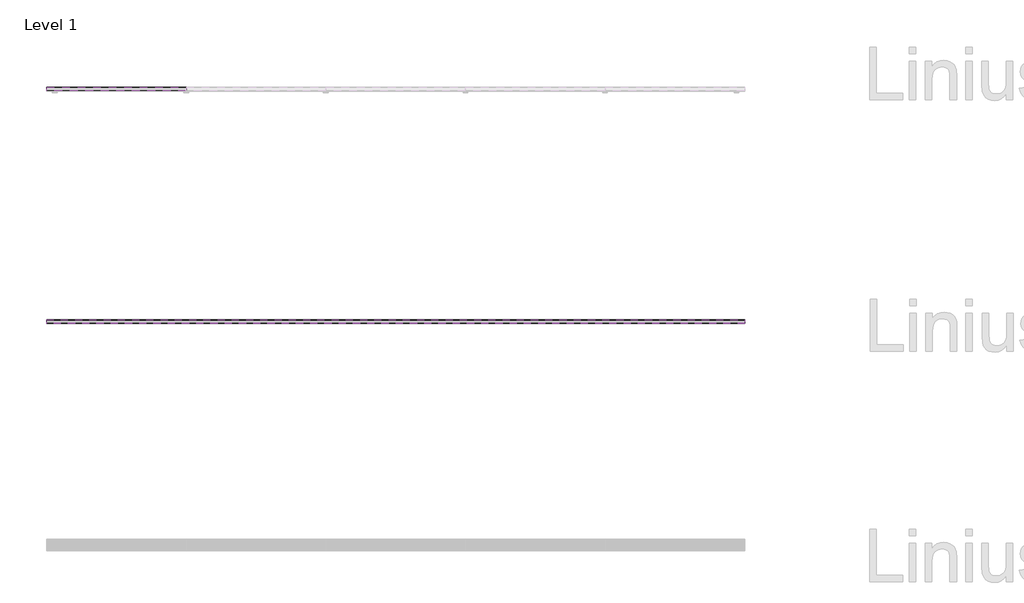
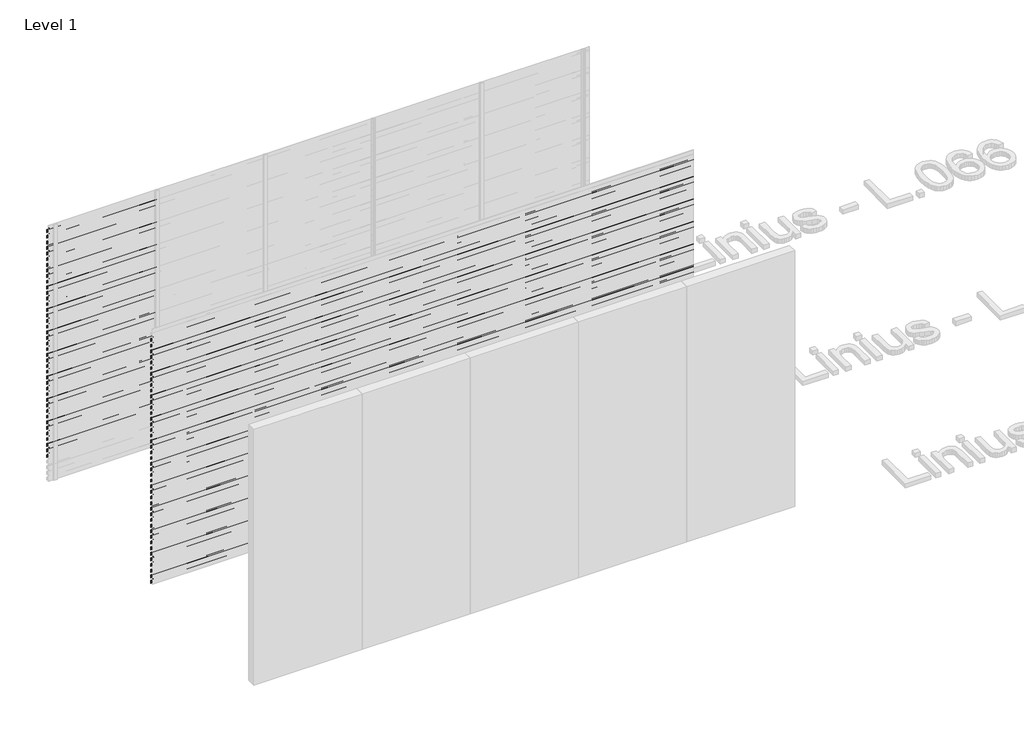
# One storey, part 94 of 540: 85 proxies.
"""IFC4 building model written with IfcOpenShell, lengths in millimetres."""

from ifc_helpers import new_model, si_unit, frame, origin, place, context, project, spatial, polyline, outline, extrude, element, save

model = new_model("IFC4")

# Units and contexts
model_context = context("Model", 3, world=origin())
ifc_project = project(units=[si_unit("LENGTHUNIT", "METRE", prefix="MILLI")], contexts=[model_context])

# Site, building, storey
site = spatial("IfcSite", under=ifc_project)
building = spatial("IfcBuilding", under=site)
storey = spatial("IfcBuildingStorey", under=building, Name="Level 1", Elevation=0.0)

# Proxies
placement = place(None, origin())
element("IfcBuildingElementProxy", 1, Name="Wall Sweeps", at=placement, inside=storey, context=model_context, shape_type="SweptSolid", body=[
    extrude(outline(polyline([(44014.0540136, 2930.0), (44014.0540136, 2897.0), (44012.8040136, 2897.7216933), (44012.8040136, 2929.2872415), (43983.0540136, 2950.0588647), (43983.0540136, 2970.0), (43984.3040136, 2970.0), (43984.3040136, 2950.7716232), (44014.0540136, 2930.0)])), frame((44966.6208097, 0.0, 0.0), z_axis=(1.0, 0.0, 0.0), x_axis=(0.0, 1.0, 0.0)), (0.0, 0.0, 1.0), 1200.0),
])
element("IfcBuildingElementProxy", 2, Name="Wall Sweeps", at=placement, inside=storey, context=model_context, shape_type="SweptSolid", body=[
    extrude(outline(polyline([(44014.0540136, 2864.0), (44014.0540136, 2831.0), (44012.8040136, 2831.7216933), (44012.8040136, 2863.2872415), (43983.0540136, 2884.0588647), (43983.0540136, 2904.0), (43984.3040136, 2904.0), (43984.3040136, 2884.7716232), (44014.0540136, 2864.0)])), frame((44966.6208097, 0.0, 0.0), z_axis=(1.0, 0.0, 0.0), x_axis=(0.0, 1.0, 0.0)), (0.0, 0.0, 1.0), 1200.0),
])
element("IfcBuildingElementProxy", 3, Name="Wall Sweeps", at=placement, inside=storey, context=model_context, shape_type="SweptSolid", body=[
    extrude(outline(polyline([(44014.0540136, 2798.0), (44014.0540136, 2765.0), (44012.8040136, 2765.7216933), (44012.8040136, 2797.2872415), (43983.0540136, 2818.0588647), (43983.0540136, 2838.0), (43984.3040136, 2838.0), (43984.3040136, 2818.7716232), (44014.0540136, 2798.0)])), frame((44966.6208097, 0.0, 0.0), z_axis=(1.0, 0.0, 0.0), x_axis=(0.0, 1.0, 0.0)), (0.0, 0.0, 1.0), 1200.0),
])
element("IfcBuildingElementProxy", 4, Name="Wall Sweeps", at=placement, inside=storey, context=model_context, shape_type="SweptSolid", body=[
    extrude(outline(polyline([(44014.0540136, 2732.0), (44014.0540136, 2699.0), (44012.8040136, 2699.7216933), (44012.8040136, 2731.2872415), (43983.0540136, 2752.0588647), (43983.0540136, 2772.0), (43984.3040136, 2772.0), (43984.3040136, 2752.7716232), (44014.0540136, 2732.0)])), frame((44966.6208097, 0.0, 0.0), z_axis=(1.0, 0.0, 0.0), x_axis=(0.0, 1.0, 0.0)), (0.0, 0.0, 1.0), 1200.0),
])
element("IfcBuildingElementProxy", 5, Name="Wall Sweeps", at=placement, inside=storey, context=model_context, shape_type="SweptSolid", body=[
    extrude(outline(polyline([(44014.0540136, 2666.0), (44014.0540136, 2633.0), (44012.8040136, 2633.7216933), (44012.8040136, 2665.2872415), (43983.0540136, 2686.0588647), (43983.0540136, 2706.0), (43984.3040136, 2706.0), (43984.3040136, 2686.7716232), (44014.0540136, 2666.0)])), frame((44966.6208097, 0.0, 0.0), z_axis=(1.0, 0.0, 0.0), x_axis=(0.0, 1.0, 0.0)), (0.0, 0.0, 1.0), 1200.0),
])
element("IfcBuildingElementProxy", 6, Name="Wall Sweeps", at=placement, inside=storey, context=model_context, shape_type="SweptSolid", body=[
    extrude(outline(polyline([(44014.0540136, 2600.0), (44014.0540136, 2567.0), (44012.8040136, 2567.7216933), (44012.8040136, 2599.2872415), (43983.0540136, 2620.0588647), (43983.0540136, 2640.0), (43984.3040136, 2640.0), (43984.3040136, 2620.7716232), (44014.0540136, 2600.0)])), frame((44966.6208097, 0.0, 0.0), z_axis=(1.0, 0.0, 0.0), x_axis=(0.0, 1.0, 0.0)), (0.0, 0.0, 1.0), 1200.0),
])
element("IfcBuildingElementProxy", 7, Name="Wall Sweeps", at=placement, inside=storey, context=model_context, shape_type="SweptSolid", body=[
    extrude(outline(polyline([(44014.0540136, 2534.0), (44014.0540136, 2501.0), (44012.8040136, 2501.7216933), (44012.8040136, 2533.2872415), (43983.0540136, 2554.0588647), (43983.0540136, 2574.0), (43984.3040136, 2574.0), (43984.3040136, 2554.7716232), (44014.0540136, 2534.0)])), frame((44966.6208097, 0.0, 0.0), z_axis=(1.0, 0.0, 0.0), x_axis=(0.0, 1.0, 0.0)), (0.0, 0.0, 1.0), 1200.0),
])
element("IfcBuildingElementProxy", 8, Name="Wall Sweeps", at=placement, inside=storey, context=model_context, shape_type="SweptSolid", body=[
    extrude(outline(polyline([(44014.0540136, 2468.0), (44014.0540136, 2435.0), (44012.8040136, 2435.7216933), (44012.8040136, 2467.2872415), (43983.0540136, 2488.0588647), (43983.0540136, 2508.0), (43984.3040136, 2508.0), (43984.3040136, 2488.7716232), (44014.0540136, 2468.0)])), frame((44966.6208097, 0.0, 0.0), z_axis=(1.0, 0.0, 0.0), x_axis=(0.0, 1.0, 0.0)), (0.0, 0.0, 1.0), 1200.0),
])
element("IfcBuildingElementProxy", 9, Name="Wall Sweeps", at=placement, inside=storey, context=model_context, shape_type="SweptSolid", body=[
    extrude(outline(polyline([(44014.0540136, 2402.0), (44014.0540136, 2369.0), (44012.8040136, 2369.7216933), (44012.8040136, 2401.2872415), (43983.0540136, 2422.0588647), (43983.0540136, 2442.0), (43984.3040136, 2442.0), (43984.3040136, 2422.7716232), (44014.0540136, 2402.0)])), frame((44966.6208097, 0.0, 0.0), z_axis=(1.0, 0.0, 0.0), x_axis=(0.0, 1.0, 0.0)), (0.0, 0.0, 1.0), 1200.0),
])
element("IfcBuildingElementProxy", 10, Name="Wall Sweeps", at=placement, inside=storey, context=model_context, shape_type="SweptSolid", body=[
    extrude(outline(polyline([(44014.0540136, 2336.0), (44014.0540136, 2303.0), (44012.8040136, 2303.7216933), (44012.8040136, 2335.2872415), (43983.0540136, 2356.0588647), (43983.0540136, 2376.0), (43984.3040136, 2376.0), (43984.3040136, 2356.7716232), (44014.0540136, 2336.0)])), frame((44966.6208097, 0.0, 0.0), z_axis=(1.0, 0.0, 0.0), x_axis=(0.0, 1.0, 0.0)), (0.0, 0.0, 1.0), 1200.0),
])
element("IfcBuildingElementProxy", 11, Name="Wall Sweeps", at=placement, inside=storey, context=model_context, shape_type="SweptSolid", body=[
    extrude(outline(polyline([(44014.0540136, 2270.0), (44014.0540136, 2237.0), (44012.8040136, 2237.7216933), (44012.8040136, 2269.2872415), (43983.0540136, 2290.0588647), (43983.0540136, 2310.0), (43984.3040136, 2310.0), (43984.3040136, 2290.7716232), (44014.0540136, 2270.0)])), frame((44966.6208097, 0.0, 0.0), z_axis=(1.0, 0.0, 0.0), x_axis=(0.0, 1.0, 0.0)), (0.0, 0.0, 1.0), 1200.0),
])
element("IfcBuildingElementProxy", 12, Name="Wall Sweeps", at=placement, inside=storey, context=model_context, shape_type="SweptSolid", body=[
    extrude(outline(polyline([(44014.0540136, 2204.0), (44014.0540136, 2171.0), (44012.8040136, 2171.7216933), (44012.8040136, 2203.2872415), (43983.0540136, 2224.0588647), (43983.0540136, 2244.0), (43984.3040136, 2244.0), (43984.3040136, 2224.7716232), (44014.0540136, 2204.0)])), frame((44966.6208097, 0.0, 0.0), z_axis=(1.0, 0.0, 0.0), x_axis=(0.0, 1.0, 0.0)), (0.0, 0.0, 1.0), 1200.0),
])
element("IfcBuildingElementProxy", 13, Name="Wall Sweeps", at=placement, inside=storey, context=model_context, shape_type="SweptSolid", body=[
    extrude(outline(polyline([(44014.0540136, 2138.0), (44014.0540136, 2105.0), (44012.8040136, 2105.7216933), (44012.8040136, 2137.2872415), (43983.0540136, 2158.0588647), (43983.0540136, 2178.0), (43984.3040136, 2178.0), (43984.3040136, 2158.7716232), (44014.0540136, 2138.0)])), frame((44966.6208097, 0.0, 0.0), z_axis=(1.0, 0.0, 0.0), x_axis=(0.0, 1.0, 0.0)), (0.0, 0.0, 1.0), 1200.0),
])
element("IfcBuildingElementProxy", 14, Name="Wall Sweeps", at=placement, inside=storey, context=model_context, shape_type="SweptSolid", body=[
    extrude(outline(polyline([(44014.0540136, 2072.0), (44014.0540136, 2039.0), (44012.8040136, 2039.7216933), (44012.8040136, 2071.2872415), (43983.0540136, 2092.0588647), (43983.0540136, 2112.0), (43984.3040136, 2112.0), (43984.3040136, 2092.7716232), (44014.0540136, 2072.0)])), frame((44966.6208097, 0.0, 0.0), z_axis=(1.0, 0.0, 0.0), x_axis=(0.0, 1.0, 0.0)), (0.0, 0.0, 1.0), 1200.0),
])
element("IfcBuildingElementProxy", 15, Name="Wall Sweeps", at=placement, inside=storey, context=model_context, shape_type="SweptSolid", body=[
    extrude(outline(polyline([(44014.0540136, 2006.0), (44014.0540136, 1973.0), (44012.8040136, 1973.7216933), (44012.8040136, 2005.2872415), (43983.0540136, 2026.0588647), (43983.0540136, 2046.0), (43984.3040136, 2046.0), (43984.3040136, 2026.7716232), (44014.0540136, 2006.0)])), frame((44966.6208097, 0.0, 0.0), z_axis=(1.0, 0.0, 0.0), x_axis=(0.0, 1.0, 0.0)), (0.0, 0.0, 1.0), 1200.0),
])
element("IfcBuildingElementProxy", 16, Name="Wall Sweeps", at=placement, inside=storey, context=model_context, shape_type="SweptSolid", body=[
    extrude(outline(polyline([(44014.0540136, 1940.0), (44014.0540136, 1907.0), (44012.8040136, 1907.7216933), (44012.8040136, 1939.2872415), (43983.0540136, 1960.0588647), (43983.0540136, 1980.0), (43984.3040136, 1980.0), (43984.3040136, 1960.7716232), (44014.0540136, 1940.0)])), frame((44966.6208097, 0.0, 0.0), z_axis=(1.0, 0.0, 0.0), x_axis=(0.0, 1.0, 0.0)), (0.0, 0.0, 1.0), 1200.0),
])
element("IfcBuildingElementProxy", 17, Name="Wall Sweeps", at=placement, inside=storey, context=model_context, shape_type="SweptSolid", body=[
    extrude(outline(polyline([(44014.0540136, 1874.0), (44014.0540136, 1841.0), (44012.8040136, 1841.7216933), (44012.8040136, 1873.2872415), (43983.0540136, 1894.0588647), (43983.0540136, 1914.0), (43984.3040136, 1914.0), (43984.3040136, 1894.7716232), (44014.0540136, 1874.0)])), frame((44966.6208097, 0.0, 0.0), z_axis=(1.0, 0.0, 0.0), x_axis=(0.0, 1.0, 0.0)), (0.0, 0.0, 1.0), 1200.0),
])
element("IfcBuildingElementProxy", 18, Name="Wall Sweeps", at=placement, inside=storey, context=model_context, shape_type="SweptSolid", body=[
    extrude(outline(polyline([(44014.0540136, 1808.0), (44014.0540136, 1775.0), (44012.8040136, 1775.7216933), (44012.8040136, 1807.2872415), (43983.0540136, 1828.0588647), (43983.0540136, 1848.0), (43984.3040136, 1848.0), (43984.3040136, 1828.7716232), (44014.0540136, 1808.0)])), frame((44966.6208097, 0.0, 0.0), z_axis=(1.0, 0.0, 0.0), x_axis=(0.0, 1.0, 0.0)), (0.0, 0.0, 1.0), 1200.0),
])
element("IfcBuildingElementProxy", 19, Name="Wall Sweeps", at=placement, inside=storey, context=model_context, shape_type="SweptSolid", body=[
    extrude(outline(polyline([(44014.0540136, 1742.0), (44014.0540136, 1709.0), (44012.8040136, 1709.7216933), (44012.8040136, 1741.2872415), (43983.0540136, 1762.0588647), (43983.0540136, 1782.0), (43984.3040136, 1782.0), (43984.3040136, 1762.7716232), (44014.0540136, 1742.0)])), frame((44966.6208097, 0.0, 0.0), z_axis=(1.0, 0.0, 0.0), x_axis=(0.0, 1.0, 0.0)), (0.0, 0.0, 1.0), 1200.0),
])
element("IfcBuildingElementProxy", 20, Name="Wall Sweeps", at=placement, inside=storey, context=model_context, shape_type="SweptSolid", body=[
    extrude(outline(polyline([(44014.0540136, 1676.0), (44014.0540136, 1643.0), (44012.8040136, 1643.7216933), (44012.8040136, 1675.2872415), (43983.0540136, 1696.0588647), (43983.0540136, 1716.0), (43984.3040136, 1716.0), (43984.3040136, 1696.7716232), (44014.0540136, 1676.0)])), frame((44966.6208097, 0.0, 0.0), z_axis=(1.0, 0.0, 0.0), x_axis=(0.0, 1.0, 0.0)), (0.0, 0.0, 1.0), 1200.0),
])
element("IfcBuildingElementProxy", 21, Name="Wall Sweeps", at=placement, inside=storey, context=model_context, shape_type="SweptSolid", body=[
    extrude(outline(polyline([(44014.0540136, 1610.0), (44014.0540136, 1577.0), (44012.8040136, 1577.7216933), (44012.8040136, 1609.2872415), (43983.0540136, 1630.0588647), (43983.0540136, 1650.0), (43984.3040136, 1650.0), (43984.3040136, 1630.7716232), (44014.0540136, 1610.0)])), frame((44966.6208097, 0.0, 0.0), z_axis=(1.0, 0.0, 0.0), x_axis=(0.0, 1.0, 0.0)), (0.0, 0.0, 1.0), 1200.0),
])
element("IfcBuildingElementProxy", 22, Name="Wall Sweeps", at=placement, inside=storey, context=model_context, shape_type="SweptSolid", body=[
    extrude(outline(polyline([(44014.0540136, 1544.0), (44014.0540136, 1511.0), (44012.8040136, 1511.7216933), (44012.8040136, 1543.2872415), (43983.0540136, 1564.0588647), (43983.0540136, 1584.0), (43984.3040136, 1584.0), (43984.3040136, 1564.7716232), (44014.0540136, 1544.0)])), frame((44966.6208097, 0.0, 0.0), z_axis=(1.0, 0.0, 0.0), x_axis=(0.0, 1.0, 0.0)), (0.0, 0.0, 1.0), 1200.0),
])
element("IfcBuildingElementProxy", 23, Name="Wall Sweeps", at=placement, inside=storey, context=model_context, shape_type="SweptSolid", body=[
    extrude(outline(polyline([(44014.0540136, 1478.0), (44014.0540136, 1445.0), (44012.8040136, 1445.7216933), (44012.8040136, 1477.2872415), (43983.0540136, 1498.0588647), (43983.0540136, 1518.0), (43984.3040136, 1518.0), (43984.3040136, 1498.7716232), (44014.0540136, 1478.0)])), frame((44966.6208097, 0.0, 0.0), z_axis=(1.0, 0.0, 0.0), x_axis=(0.0, 1.0, 0.0)), (0.0, 0.0, 1.0), 1200.0),
])
element("IfcBuildingElementProxy", 24, Name="Wall Sweeps", at=placement, inside=storey, context=model_context, shape_type="SweptSolid", body=[
    extrude(outline(polyline([(44014.0540136, 1412.0), (44014.0540136, 1379.0), (44012.8040136, 1379.7216933), (44012.8040136, 1411.2872415), (43983.0540136, 1432.0588647), (43983.0540136, 1452.0), (43984.3040136, 1452.0), (43984.3040136, 1432.7716232), (44014.0540136, 1412.0)])), frame((44966.6208097, 0.0, 0.0), z_axis=(1.0, 0.0, 0.0), x_axis=(0.0, 1.0, 0.0)), (0.0, 0.0, 1.0), 1200.0),
])
element("IfcBuildingElementProxy", 25, Name="Wall Sweeps", at=placement, inside=storey, context=model_context, shape_type="SweptSolid", body=[
    extrude(outline(polyline([(44014.0540136, 1346.0), (44014.0540136, 1313.0), (44012.8040136, 1313.7216933), (44012.8040136, 1345.2872415), (43983.0540136, 1366.0588647), (43983.0540136, 1386.0), (43984.3040136, 1386.0), (43984.3040136, 1366.7716232), (44014.0540136, 1346.0)])), frame((44966.6208097, 0.0, 0.0), z_axis=(1.0, 0.0, 0.0), x_axis=(0.0, 1.0, 0.0)), (0.0, 0.0, 1.0), 1200.0),
])
element("IfcBuildingElementProxy", 26, Name="Wall Sweeps", at=placement, inside=storey, context=model_context, shape_type="SweptSolid", body=[
    extrude(outline(polyline([(44014.0540136, 1280.0), (44014.0540136, 1247.0), (44012.8040136, 1247.7216933), (44012.8040136, 1279.2872415), (43983.0540136, 1300.0588647), (43983.0540136, 1320.0), (43984.3040136, 1320.0), (43984.3040136, 1300.7716232), (44014.0540136, 1280.0)])), frame((44966.6208097, 0.0, 0.0), z_axis=(1.0, 0.0, 0.0), x_axis=(0.0, 1.0, 0.0)), (0.0, 0.0, 1.0), 1200.0),
])
element("IfcBuildingElementProxy", 27, Name="Wall Sweeps", at=placement, inside=storey, context=model_context, shape_type="SweptSolid", body=[
    extrude(outline(polyline([(44014.0540136, 1214.0), (44014.0540136, 1181.0), (44012.8040136, 1181.7216933), (44012.8040136, 1213.2872415), (43983.0540136, 1234.0588647), (43983.0540136, 1254.0), (43984.3040136, 1254.0), (43984.3040136, 1234.7716232), (44014.0540136, 1214.0)])), frame((44966.6208097, 0.0, 0.0), z_axis=(1.0, 0.0, 0.0), x_axis=(0.0, 1.0, 0.0)), (0.0, 0.0, 1.0), 1200.0),
])
element("IfcBuildingElementProxy", 28, Name="Wall Sweeps", at=placement, inside=storey, context=model_context, shape_type="SweptSolid", body=[
    extrude(outline(polyline([(44014.0540136, 1148.0), (44014.0540136, 1115.0), (44012.8040136, 1115.7216933), (44012.8040136, 1147.2872415), (43983.0540136, 1168.0588647), (43983.0540136, 1188.0), (43984.3040136, 1188.0), (43984.3040136, 1168.7716232), (44014.0540136, 1148.0)])), frame((44966.6208097, 0.0, 0.0), z_axis=(1.0, 0.0, 0.0), x_axis=(0.0, 1.0, 0.0)), (0.0, 0.0, 1.0), 1200.0),
])
element("IfcBuildingElementProxy", 29, Name="Wall Sweeps", at=placement, inside=storey, context=model_context, shape_type="SweptSolid", body=[
    extrude(outline(polyline([(44014.0540136, 1082.0), (44014.0540136, 1049.0), (44012.8040136, 1049.7216933), (44012.8040136, 1081.2872415), (43983.0540136, 1102.0588647), (43983.0540136, 1122.0), (43984.3040136, 1122.0), (43984.3040136, 1102.7716232), (44014.0540136, 1082.0)])), frame((44966.6208097, 0.0, 0.0), z_axis=(1.0, 0.0, 0.0), x_axis=(0.0, 1.0, 0.0)), (0.0, 0.0, 1.0), 1200.0),
])
element("IfcBuildingElementProxy", 30, Name="Wall Sweeps", at=placement, inside=storey, context=model_context, shape_type="SweptSolid", body=[
    extrude(outline(polyline([(44014.0540136, 1016.0), (44014.0540136, 983.0), (44012.8040136, 983.7216933), (44012.8040136, 1015.2872415), (43983.0540136, 1036.0588647), (43983.0540136, 1056.0), (43984.3040136, 1056.0), (43984.3040136, 1036.7716232), (44014.0540136, 1016.0)])), frame((44966.6208097, 0.0, 0.0), z_axis=(1.0, 0.0, 0.0), x_axis=(0.0, 1.0, 0.0)), (0.0, 0.0, 1.0), 1200.0),
])
element("IfcBuildingElementProxy", 31, Name="Wall Sweeps", at=placement, inside=storey, context=model_context, shape_type="SweptSolid", body=[
    extrude(outline(polyline([(44014.0540136, 950.0), (44014.0540136, 917.0), (44012.8040136, 917.7216933), (44012.8040136, 949.2872415), (43983.0540136, 970.0588647), (43983.0540136, 990.0), (43984.3040136, 990.0), (43984.3040136, 970.7716232), (44014.0540136, 950.0)])), frame((44966.6208097, 0.0, 0.0), z_axis=(1.0, 0.0, 0.0), x_axis=(0.0, 1.0, 0.0)), (0.0, 0.0, 1.0), 1200.0),
])
element("IfcBuildingElementProxy", 32, Name="Wall Sweeps", at=placement, inside=storey, context=model_context, shape_type="SweptSolid", body=[
    extrude(outline(polyline([(44014.0540136, 884.0), (44014.0540136, 851.0), (44012.8040136, 851.7216933), (44012.8040136, 883.2872415), (43983.0540136, 904.0588647), (43983.0540136, 924.0), (43984.3040136, 924.0), (43984.3040136, 904.7716232), (44014.0540136, 884.0)])), frame((44966.6208097, 0.0, 0.0), z_axis=(1.0, 0.0, 0.0), x_axis=(0.0, 1.0, 0.0)), (0.0, 0.0, 1.0), 1200.0),
])
element("IfcBuildingElementProxy", 33, Name="Wall Sweeps", at=placement, inside=storey, context=model_context, shape_type="SweptSolid", body=[
    extrude(outline(polyline([(44014.0540136, 818.0), (44014.0540136, 785.0), (44012.8040136, 785.7216933), (44012.8040136, 817.2872415), (43983.0540136, 838.0588647), (43983.0540136, 858.0), (43984.3040136, 858.0), (43984.3040136, 838.7716232), (44014.0540136, 818.0)])), frame((44966.6208097, 0.0, 0.0), z_axis=(1.0, 0.0, 0.0), x_axis=(0.0, 1.0, 0.0)), (0.0, 0.0, 1.0), 1200.0),
])
element("IfcBuildingElementProxy", 34, Name="Wall Sweeps", at=placement, inside=storey, context=model_context, shape_type="SweptSolid", body=[
    extrude(outline(polyline([(44014.0540136, 752.0), (44014.0540136, 719.0), (44012.8040136, 719.7216933), (44012.8040136, 751.2872415), (43983.0540136, 772.0588647), (43983.0540136, 792.0), (43984.3040136, 792.0), (43984.3040136, 772.7716232), (44014.0540136, 752.0)])), frame((44966.6208097, 0.0, 0.0), z_axis=(1.0, 0.0, 0.0), x_axis=(0.0, 1.0, 0.0)), (0.0, 0.0, 1.0), 1200.0),
])
element("IfcBuildingElementProxy", 35, Name="Wall Sweeps", at=placement, inside=storey, context=model_context, shape_type="SweptSolid", body=[
    extrude(outline(polyline([(44014.0540136, 686.0), (44014.0540136, 653.0), (44012.8040136, 653.7216933), (44012.8040136, 685.2872415), (43983.0540136, 706.0588647), (43983.0540136, 726.0), (43984.3040136, 726.0), (43984.3040136, 706.7716232), (44014.0540136, 686.0)])), frame((44966.6208097, 0.0, 0.0), z_axis=(1.0, 0.0, 0.0), x_axis=(0.0, 1.0, 0.0)), (0.0, 0.0, 1.0), 1200.0),
])
element("IfcBuildingElementProxy", 36, Name="Wall Sweeps", at=placement, inside=storey, context=model_context, shape_type="SweptSolid", body=[
    extrude(outline(polyline([(44014.0540136, 620.0), (44014.0540136, 587.0), (44012.8040136, 587.7216933), (44012.8040136, 619.2872415), (43983.0540136, 640.0588647), (43983.0540136, 660.0), (43984.3040136, 660.0), (43984.3040136, 640.7716232), (44014.0540136, 620.0)])), frame((44966.6208097, 0.0, 0.0), z_axis=(1.0, 0.0, 0.0), x_axis=(0.0, 1.0, 0.0)), (0.0, 0.0, 1.0), 1200.0),
])
element("IfcBuildingElementProxy", 37, Name="Wall Sweeps", at=placement, inside=storey, context=model_context, shape_type="SweptSolid", body=[
    extrude(outline(polyline([(44014.0540136, 554.0), (44014.0540136, 521.0), (44012.8040136, 521.7216933), (44012.8040136, 553.2872415), (43983.0540136, 574.0588647), (43983.0540136, 594.0), (43984.3040136, 594.0), (43984.3040136, 574.7716232), (44014.0540136, 554.0)])), frame((44966.6208097, 0.0, 0.0), z_axis=(1.0, 0.0, 0.0), x_axis=(0.0, 1.0, 0.0)), (0.0, 0.0, 1.0), 1200.0),
])
element("IfcBuildingElementProxy", 38, Name="Wall Sweeps", at=placement, inside=storey, context=model_context, shape_type="SweptSolid", body=[
    extrude(outline(polyline([(44014.0540136, 488.0), (44014.0540136, 455.0), (44012.8040136, 455.7216933), (44012.8040136, 487.2872415), (43983.0540136, 508.0588647), (43983.0540136, 528.0), (43984.3040136, 528.0), (43984.3040136, 508.7716232), (44014.0540136, 488.0)])), frame((44966.6208097, 0.0, 0.0), z_axis=(1.0, 0.0, 0.0), x_axis=(0.0, 1.0, 0.0)), (0.0, 0.0, 1.0), 1200.0),
])
element("IfcBuildingElementProxy", 39, Name="Wall Sweeps", at=placement, inside=storey, context=model_context, shape_type="SweptSolid", body=[
    extrude(outline(polyline([(44014.0540136, 422.0), (44014.0540136, 389.0), (44012.8040136, 389.7216933), (44012.8040136, 421.2872415), (43983.0540136, 442.0588647), (43983.0540136, 462.0), (43984.3040136, 462.0), (43984.3040136, 442.7716232), (44014.0540136, 422.0)])), frame((44966.6208097, 0.0, 0.0), z_axis=(1.0, 0.0, 0.0), x_axis=(0.0, 1.0, 0.0)), (0.0, 0.0, 1.0), 1200.0),
])
element("IfcBuildingElementProxy", 40, Name="Wall Sweeps", at=placement, inside=storey, context=model_context, shape_type="SweptSolid", body=[
    extrude(outline(polyline([(44014.0540136, 356.0), (44014.0540136, 323.0), (44012.8040136, 323.7216933), (44012.8040136, 355.2872415), (43983.0540136, 376.0588647), (43983.0540136, 396.0), (43984.3040136, 396.0), (43984.3040136, 376.7716232), (44014.0540136, 356.0)])), frame((44966.6208097, 0.0, 0.0), z_axis=(1.0, 0.0, 0.0), x_axis=(0.0, 1.0, 0.0)), (0.0, 0.0, 1.0), 1200.0),
])
element("IfcBuildingElementProxy", 41, Name="Wall Sweeps", at=placement, inside=storey, context=model_context, shape_type="SweptSolid", body=[
    extrude(outline(polyline([(44014.0540136, 290.0), (44014.0540136, 257.0), (44012.8040136, 257.7216933), (44012.8040136, 289.2872415), (43983.0540136, 310.0588647), (43983.0540136, 330.0), (43984.3040136, 330.0), (43984.3040136, 310.7716232), (44014.0540136, 290.0)])), frame((44966.6208097, 0.0, 0.0), z_axis=(1.0, 0.0, 0.0), x_axis=(0.0, 1.0, 0.0)), (0.0, 0.0, 1.0), 1200.0),
])
element("IfcBuildingElementProxy", 42, Name="Wall Sweeps", at=placement, inside=storey, context=model_context, shape_type="SweptSolid", body=[
    extrude(outline(polyline([(42014.0540136, 2864.0), (42014.0540136, 2831.0), (42012.8040136, 2831.7216933), (42012.8040136, 2863.2872415), (41983.0540136, 2884.0588647), (41983.0540136, 2904.0), (41984.3040136, 2904.0), (41984.3040136, 2884.7716232), (42014.0540136, 2864.0)])), frame((44966.6208097, 0.0, 0.0), z_axis=(1.0, 0.0, 0.0), x_axis=(0.0, 1.0, 0.0)), (0.0, 0.0, 1.0), 6000.0),
])
element("IfcBuildingElementProxy", 43, Name="Wall Sweeps", at=placement, inside=storey, context=model_context, shape_type="SweptSolid", body=[
    extrude(outline(polyline([(42014.0540136, 2798.0), (42014.0540136, 2765.0), (42012.8040136, 2765.7216933), (42012.8040136, 2797.2872415), (41983.0540136, 2818.0588647), (41983.0540136, 2838.0), (41984.3040136, 2838.0), (41984.3040136, 2818.7716232), (42014.0540136, 2798.0)])), frame((44966.6208097, 0.0, 0.0), z_axis=(1.0, 0.0, 0.0), x_axis=(0.0, 1.0, 0.0)), (0.0, 0.0, 1.0), 6000.0),
])
element("IfcBuildingElementProxy", 44, Name="Wall Sweeps", at=placement, inside=storey, context=model_context, shape_type="SweptSolid", body=[
    extrude(outline(polyline([(42014.0540136, 2732.0), (42014.0540136, 2699.0), (42012.8040136, 2699.7216933), (42012.8040136, 2731.2872415), (41983.0540136, 2752.0588647), (41983.0540136, 2772.0), (41984.3040136, 2772.0), (41984.3040136, 2752.7716232), (42014.0540136, 2732.0)])), frame((44966.6208097, 0.0, 0.0), z_axis=(1.0, 0.0, 0.0), x_axis=(0.0, 1.0, 0.0)), (0.0, 0.0, 1.0), 6000.0),
])
element("IfcBuildingElementProxy", 45, Name="Wall Sweeps", at=placement, inside=storey, context=model_context, shape_type="SweptSolid", body=[
    extrude(outline(polyline([(42014.0540136, 2666.0), (42014.0540136, 2633.0), (42012.8040136, 2633.7216933), (42012.8040136, 2665.2872415), (41983.0540136, 2686.0588647), (41983.0540136, 2706.0), (41984.3040136, 2706.0), (41984.3040136, 2686.7716232), (42014.0540136, 2666.0)])), frame((44966.6208097, 0.0, 0.0), z_axis=(1.0, 0.0, 0.0), x_axis=(0.0, 1.0, 0.0)), (0.0, 0.0, 1.0), 6000.0),
])
element("IfcBuildingElementProxy", 46, Name="Wall Sweeps", at=placement, inside=storey, context=model_context, shape_type="SweptSolid", body=[
    extrude(outline(polyline([(42014.0540136, 2600.0), (42014.0540136, 2567.0), (42012.8040136, 2567.7216933), (42012.8040136, 2599.2872415), (41983.0540136, 2620.0588647), (41983.0540136, 2640.0), (41984.3040136, 2640.0), (41984.3040136, 2620.7716232), (42014.0540136, 2600.0)])), frame((44966.6208097, 0.0, 0.0), z_axis=(1.0, 0.0, 0.0), x_axis=(0.0, 1.0, 0.0)), (0.0, 0.0, 1.0), 6000.0),
])
element("IfcBuildingElementProxy", 47, Name="Wall Sweeps", at=placement, inside=storey, context=model_context, shape_type="SweptSolid", body=[
    extrude(outline(polyline([(42014.0540136, 2534.0), (42014.0540136, 2501.0), (42012.8040136, 2501.7216933), (42012.8040136, 2533.2872415), (41983.0540136, 2554.0588647), (41983.0540136, 2574.0), (41984.3040136, 2574.0), (41984.3040136, 2554.7716232), (42014.0540136, 2534.0)])), frame((44966.6208097, 0.0, 0.0), z_axis=(1.0, 0.0, 0.0), x_axis=(0.0, 1.0, 0.0)), (0.0, 0.0, 1.0), 6000.0),
])
element("IfcBuildingElementProxy", 48, Name="Wall Sweeps", at=placement, inside=storey, context=model_context, shape_type="SweptSolid", body=[
    extrude(outline(polyline([(42014.0540136, 2468.0), (42014.0540136, 2435.0), (42012.8040136, 2435.7216933), (42012.8040136, 2467.2872415), (41983.0540136, 2488.0588647), (41983.0540136, 2508.0), (41984.3040136, 2508.0), (41984.3040136, 2488.7716232), (42014.0540136, 2468.0)])), frame((44966.6208097, 0.0, 0.0), z_axis=(1.0, 0.0, 0.0), x_axis=(0.0, 1.0, 0.0)), (0.0, 0.0, 1.0), 6000.0),
])
element("IfcBuildingElementProxy", 49, Name="Wall Sweeps", at=placement, inside=storey, context=model_context, shape_type="SweptSolid", body=[
    extrude(outline(polyline([(42014.0540136, 2402.0), (42014.0540136, 2369.0), (42012.8040136, 2369.7216933), (42012.8040136, 2401.2872415), (41983.0540136, 2422.0588647), (41983.0540136, 2442.0), (41984.3040136, 2442.0), (41984.3040136, 2422.7716232), (42014.0540136, 2402.0)])), frame((44966.6208097, 0.0, 0.0), z_axis=(1.0, 0.0, 0.0), x_axis=(0.0, 1.0, 0.0)), (0.0, 0.0, 1.0), 6000.0),
])
element("IfcBuildingElementProxy", 50, Name="Wall Sweeps", at=placement, inside=storey, context=model_context, shape_type="SweptSolid", body=[
    extrude(outline(polyline([(42014.0540136, 2336.0), (42014.0540136, 2303.0), (42012.8040136, 2303.7216933), (42012.8040136, 2335.2872415), (41983.0540136, 2356.0588647), (41983.0540136, 2376.0), (41984.3040136, 2376.0), (41984.3040136, 2356.7716232), (42014.0540136, 2336.0)])), frame((44966.6208097, 0.0, 0.0), z_axis=(1.0, 0.0, 0.0), x_axis=(0.0, 1.0, 0.0)), (0.0, 0.0, 1.0), 6000.0),
])
element("IfcBuildingElementProxy", 51, Name="Wall Sweeps", at=placement, inside=storey, context=model_context, shape_type="SweptSolid", body=[
    extrude(outline(polyline([(42014.0540136, 2270.0), (42014.0540136, 2237.0), (42012.8040136, 2237.7216933), (42012.8040136, 2269.2872415), (41983.0540136, 2290.0588647), (41983.0540136, 2310.0), (41984.3040136, 2310.0), (41984.3040136, 2290.7716232), (42014.0540136, 2270.0)])), frame((44966.6208097, 0.0, 0.0), z_axis=(1.0, 0.0, 0.0), x_axis=(0.0, 1.0, 0.0)), (0.0, 0.0, 1.0), 6000.0),
])
element("IfcBuildingElementProxy", 52, Name="Wall Sweeps", at=placement, inside=storey, context=model_context, shape_type="SweptSolid", body=[
    extrude(outline(polyline([(42014.0540136, 2204.0), (42014.0540136, 2171.0), (42012.8040136, 2171.7216933), (42012.8040136, 2203.2872415), (41983.0540136, 2224.0588647), (41983.0540136, 2244.0), (41984.3040136, 2244.0), (41984.3040136, 2224.7716232), (42014.0540136, 2204.0)])), frame((44966.6208097, 0.0, 0.0), z_axis=(1.0, 0.0, 0.0), x_axis=(0.0, 1.0, 0.0)), (0.0, 0.0, 1.0), 6000.0),
])
element("IfcBuildingElementProxy", 53, Name="Wall Sweeps", at=placement, inside=storey, context=model_context, shape_type="SweptSolid", body=[
    extrude(outline(polyline([(42014.0540136, 2138.0), (42014.0540136, 2105.0), (42012.8040136, 2105.7216933), (42012.8040136, 2137.2872415), (41983.0540136, 2158.0588647), (41983.0540136, 2178.0), (41984.3040136, 2178.0), (41984.3040136, 2158.7716232), (42014.0540136, 2138.0)])), frame((44966.6208097, 0.0, 0.0), z_axis=(1.0, 0.0, 0.0), x_axis=(0.0, 1.0, 0.0)), (0.0, 0.0, 1.0), 6000.0),
])
element("IfcBuildingElementProxy", 54, Name="Wall Sweeps", at=placement, inside=storey, context=model_context, shape_type="SweptSolid", body=[
    extrude(outline(polyline([(42014.0540136, 2072.0), (42014.0540136, 2039.0), (42012.8040136, 2039.7216933), (42012.8040136, 2071.2872415), (41983.0540136, 2092.0588647), (41983.0540136, 2112.0), (41984.3040136, 2112.0), (41984.3040136, 2092.7716232), (42014.0540136, 2072.0)])), frame((44966.6208097, 0.0, 0.0), z_axis=(1.0, 0.0, 0.0), x_axis=(0.0, 1.0, 0.0)), (0.0, 0.0, 1.0), 6000.0),
])
element("IfcBuildingElementProxy", 55, Name="Wall Sweeps", at=placement, inside=storey, context=model_context, shape_type="SweptSolid", body=[
    extrude(outline(polyline([(42014.0540136, 2006.0), (42014.0540136, 1973.0), (42012.8040136, 1973.7216933), (42012.8040136, 2005.2872415), (41983.0540136, 2026.0588647), (41983.0540136, 2046.0), (41984.3040136, 2046.0), (41984.3040136, 2026.7716232), (42014.0540136, 2006.0)])), frame((44966.6208097, 0.0, 0.0), z_axis=(1.0, 0.0, 0.0), x_axis=(0.0, 1.0, 0.0)), (0.0, 0.0, 1.0), 6000.0),
])
element("IfcBuildingElementProxy", 56, Name="Wall Sweeps", at=placement, inside=storey, context=model_context, shape_type="SweptSolid", body=[
    extrude(outline(polyline([(42014.0540136, 1940.0), (42014.0540136, 1907.0), (42012.8040136, 1907.7216933), (42012.8040136, 1939.2872415), (41983.0540136, 1960.0588647), (41983.0540136, 1980.0), (41984.3040136, 1980.0), (41984.3040136, 1960.7716232), (42014.0540136, 1940.0)])), frame((44966.6208097, 0.0, 0.0), z_axis=(1.0, 0.0, 0.0), x_axis=(0.0, 1.0, 0.0)), (0.0, 0.0, 1.0), 6000.0),
])
element("IfcBuildingElementProxy", 57, Name="Wall Sweeps", at=placement, inside=storey, context=model_context, shape_type="SweptSolid", body=[
    extrude(outline(polyline([(42014.0540136, 1874.0), (42014.0540136, 1841.0), (42012.8040136, 1841.7216933), (42012.8040136, 1873.2872415), (41983.0540136, 1894.0588647), (41983.0540136, 1914.0), (41984.3040136, 1914.0), (41984.3040136, 1894.7716232), (42014.0540136, 1874.0)])), frame((44966.6208097, 0.0, 0.0), z_axis=(1.0, 0.0, 0.0), x_axis=(0.0, 1.0, 0.0)), (0.0, 0.0, 1.0), 6000.0),
])
element("IfcBuildingElementProxy", 58, Name="Wall Sweeps", at=placement, inside=storey, context=model_context, shape_type="SweptSolid", body=[
    extrude(outline(polyline([(42014.0540136, 1808.0), (42014.0540136, 1775.0), (42012.8040136, 1775.7216933), (42012.8040136, 1807.2872415), (41983.0540136, 1828.0588647), (41983.0540136, 1848.0), (41984.3040136, 1848.0), (41984.3040136, 1828.7716232), (42014.0540136, 1808.0)])), frame((44966.6208097, 0.0, 0.0), z_axis=(1.0, 0.0, 0.0), x_axis=(0.0, 1.0, 0.0)), (0.0, 0.0, 1.0), 6000.0),
])
element("IfcBuildingElementProxy", 59, Name="Wall Sweeps", at=placement, inside=storey, context=model_context, shape_type="SweptSolid", body=[
    extrude(outline(polyline([(42014.0540136, 1742.0), (42014.0540136, 1709.0), (42012.8040136, 1709.7216933), (42012.8040136, 1741.2872415), (41983.0540136, 1762.0588647), (41983.0540136, 1782.0), (41984.3040136, 1782.0), (41984.3040136, 1762.7716232), (42014.0540136, 1742.0)])), frame((44966.6208097, 0.0, 0.0), z_axis=(1.0, 0.0, 0.0), x_axis=(0.0, 1.0, 0.0)), (0.0, 0.0, 1.0), 6000.0),
])
element("IfcBuildingElementProxy", 60, Name="Wall Sweeps", at=placement, inside=storey, context=model_context, shape_type="SweptSolid", body=[
    extrude(outline(polyline([(42014.0540136, 1676.0), (42014.0540136, 1643.0), (42012.8040136, 1643.7216933), (42012.8040136, 1675.2872415), (41983.0540136, 1696.0588647), (41983.0540136, 1716.0), (41984.3040136, 1716.0), (41984.3040136, 1696.7716232), (42014.0540136, 1676.0)])), frame((44966.6208097, 0.0, 0.0), z_axis=(1.0, 0.0, 0.0), x_axis=(0.0, 1.0, 0.0)), (0.0, 0.0, 1.0), 6000.0),
])
element("IfcBuildingElementProxy", 61, Name="Wall Sweeps", at=placement, inside=storey, context=model_context, shape_type="SweptSolid", body=[
    extrude(outline(polyline([(42014.0540136, 1610.0), (42014.0540136, 1577.0), (42012.8040136, 1577.7216933), (42012.8040136, 1609.2872415), (41983.0540136, 1630.0588647), (41983.0540136, 1650.0), (41984.3040136, 1650.0), (41984.3040136, 1630.7716232), (42014.0540136, 1610.0)])), frame((44966.6208097, 0.0, 0.0), z_axis=(1.0, 0.0, 0.0), x_axis=(0.0, 1.0, 0.0)), (0.0, 0.0, 1.0), 6000.0),
])
element("IfcBuildingElementProxy", 62, Name="Wall Sweeps", at=placement, inside=storey, context=model_context, shape_type="SweptSolid", body=[
    extrude(outline(polyline([(42014.0540136, 1544.0), (42014.0540136, 1511.0), (42012.8040136, 1511.7216933), (42012.8040136, 1543.2872415), (41983.0540136, 1564.0588647), (41983.0540136, 1584.0), (41984.3040136, 1584.0), (41984.3040136, 1564.7716232), (42014.0540136, 1544.0)])), frame((44966.6208097, 0.0, 0.0), z_axis=(1.0, 0.0, 0.0), x_axis=(0.0, 1.0, 0.0)), (0.0, 0.0, 1.0), 6000.0),
])
element("IfcBuildingElementProxy", 63, Name="Wall Sweeps", at=placement, inside=storey, context=model_context, shape_type="SweptSolid", body=[
    extrude(outline(polyline([(42014.0540136, 1478.0), (42014.0540136, 1445.0), (42012.8040136, 1445.7216933), (42012.8040136, 1477.2872415), (41983.0540136, 1498.0588647), (41983.0540136, 1518.0), (41984.3040136, 1518.0), (41984.3040136, 1498.7716232), (42014.0540136, 1478.0)])), frame((44966.6208097, 0.0, 0.0), z_axis=(1.0, 0.0, 0.0), x_axis=(0.0, 1.0, 0.0)), (0.0, 0.0, 1.0), 6000.0),
])
element("IfcBuildingElementProxy", 64, Name="Wall Sweeps", at=placement, inside=storey, context=model_context, shape_type="SweptSolid", body=[
    extrude(outline(polyline([(42014.0540136, 1412.0), (42014.0540136, 1379.0), (42012.8040136, 1379.7216933), (42012.8040136, 1411.2872415), (41983.0540136, 1432.0588647), (41983.0540136, 1452.0), (41984.3040136, 1452.0), (41984.3040136, 1432.7716232), (42014.0540136, 1412.0)])), frame((44966.6208097, 0.0, 0.0), z_axis=(1.0, 0.0, 0.0), x_axis=(0.0, 1.0, 0.0)), (0.0, 0.0, 1.0), 6000.0),
])
element("IfcBuildingElementProxy", 65, Name="Wall Sweeps", at=placement, inside=storey, context=model_context, shape_type="SweptSolid", body=[
    extrude(outline(polyline([(42014.0540136, 1346.0), (42014.0540136, 1313.0), (42012.8040136, 1313.7216933), (42012.8040136, 1345.2872415), (41983.0540136, 1366.0588647), (41983.0540136, 1386.0), (41984.3040136, 1386.0), (41984.3040136, 1366.7716232), (42014.0540136, 1346.0)])), frame((44966.6208097, 0.0, 0.0), z_axis=(1.0, 0.0, 0.0), x_axis=(0.0, 1.0, 0.0)), (0.0, 0.0, 1.0), 6000.0),
])
element("IfcBuildingElementProxy", 66, Name="Wall Sweeps", at=placement, inside=storey, context=model_context, shape_type="SweptSolid", body=[
    extrude(outline(polyline([(42014.0540136, 1280.0), (42014.0540136, 1247.0), (42012.8040136, 1247.7216933), (42012.8040136, 1279.2872415), (41983.0540136, 1300.0588647), (41983.0540136, 1320.0), (41984.3040136, 1320.0), (41984.3040136, 1300.7716232), (42014.0540136, 1280.0)])), frame((44966.6208097, 0.0, 0.0), z_axis=(1.0, 0.0, 0.0), x_axis=(0.0, 1.0, 0.0)), (0.0, 0.0, 1.0), 6000.0),
])
element("IfcBuildingElementProxy", 67, Name="Wall Sweeps", at=placement, inside=storey, context=model_context, shape_type="SweptSolid", body=[
    extrude(outline(polyline([(42014.0540136, 1214.0), (42014.0540136, 1181.0), (42012.8040136, 1181.7216933), (42012.8040136, 1213.2872415), (41983.0540136, 1234.0588647), (41983.0540136, 1254.0), (41984.3040136, 1254.0), (41984.3040136, 1234.7716232), (42014.0540136, 1214.0)])), frame((44966.6208097, 0.0, 0.0), z_axis=(1.0, 0.0, 0.0), x_axis=(0.0, 1.0, 0.0)), (0.0, 0.0, 1.0), 6000.0),
])
element("IfcBuildingElementProxy", 68, Name="Wall Sweeps", at=placement, inside=storey, context=model_context, shape_type="SweptSolid", body=[
    extrude(outline(polyline([(42014.0540136, 1148.0), (42014.0540136, 1115.0), (42012.8040136, 1115.7216933), (42012.8040136, 1147.2872415), (41983.0540136, 1168.0588647), (41983.0540136, 1188.0), (41984.3040136, 1188.0), (41984.3040136, 1168.7716232), (42014.0540136, 1148.0)])), frame((44966.6208097, 0.0, 0.0), z_axis=(1.0, 0.0, 0.0), x_axis=(0.0, 1.0, 0.0)), (0.0, 0.0, 1.0), 6000.0),
])
element("IfcBuildingElementProxy", 69, Name="Wall Sweeps", at=placement, inside=storey, context=model_context, shape_type="SweptSolid", body=[
    extrude(outline(polyline([(42014.0540136, 1082.0), (42014.0540136, 1049.0), (42012.8040136, 1049.7216933), (42012.8040136, 1081.2872415), (41983.0540136, 1102.0588647), (41983.0540136, 1122.0), (41984.3040136, 1122.0), (41984.3040136, 1102.7716232), (42014.0540136, 1082.0)])), frame((44966.6208097, 0.0, 0.0), z_axis=(1.0, 0.0, 0.0), x_axis=(0.0, 1.0, 0.0)), (0.0, 0.0, 1.0), 6000.0),
])
element("IfcBuildingElementProxy", 70, Name="Wall Sweeps", at=placement, inside=storey, context=model_context, shape_type="SweptSolid", body=[
    extrude(outline(polyline([(42014.0540136, 1016.0), (42014.0540136, 983.0), (42012.8040136, 983.7216933), (42012.8040136, 1015.2872415), (41983.0540136, 1036.0588647), (41983.0540136, 1056.0), (41984.3040136, 1056.0), (41984.3040136, 1036.7716232), (42014.0540136, 1016.0)])), frame((44966.6208097, 0.0, 0.0), z_axis=(1.0, 0.0, 0.0), x_axis=(0.0, 1.0, 0.0)), (0.0, 0.0, 1.0), 6000.0),
])
element("IfcBuildingElementProxy", 71, Name="Wall Sweeps", at=placement, inside=storey, context=model_context, shape_type="SweptSolid", body=[
    extrude(outline(polyline([(42014.0540136, 950.0), (42014.0540136, 917.0), (42012.8040136, 917.7216933), (42012.8040136, 949.2872415), (41983.0540136, 970.0588647), (41983.0540136, 990.0), (41984.3040136, 990.0), (41984.3040136, 970.7716232), (42014.0540136, 950.0)])), frame((44966.6208097, 0.0, 0.0), z_axis=(1.0, 0.0, 0.0), x_axis=(0.0, 1.0, 0.0)), (0.0, 0.0, 1.0), 6000.0),
])
element("IfcBuildingElementProxy", 72, Name="Wall Sweeps", at=placement, inside=storey, context=model_context, shape_type="SweptSolid", body=[
    extrude(outline(polyline([(42014.0540136, 884.0), (42014.0540136, 851.0), (42012.8040136, 851.7216933), (42012.8040136, 883.2872415), (41983.0540136, 904.0588647), (41983.0540136, 924.0), (41984.3040136, 924.0), (41984.3040136, 904.7716232), (42014.0540136, 884.0)])), frame((44966.6208097, 0.0, 0.0), z_axis=(1.0, 0.0, 0.0), x_axis=(0.0, 1.0, 0.0)), (0.0, 0.0, 1.0), 6000.0),
])
element("IfcBuildingElementProxy", 73, Name="Wall Sweeps", at=placement, inside=storey, context=model_context, shape_type="SweptSolid", body=[
    extrude(outline(polyline([(42014.0540136, 818.0), (42014.0540136, 785.0), (42012.8040136, 785.7216933), (42012.8040136, 817.2872415), (41983.0540136, 838.0588647), (41983.0540136, 858.0), (41984.3040136, 858.0), (41984.3040136, 838.7716232), (42014.0540136, 818.0)])), frame((44966.6208097, 0.0, 0.0), z_axis=(1.0, 0.0, 0.0), x_axis=(0.0, 1.0, 0.0)), (0.0, 0.0, 1.0), 6000.0),
])
element("IfcBuildingElementProxy", 74, Name="Wall Sweeps", at=placement, inside=storey, context=model_context, shape_type="SweptSolid", body=[
    extrude(outline(polyline([(42014.0540136, 752.0), (42014.0540136, 719.0), (42012.8040136, 719.7216933), (42012.8040136, 751.2872415), (41983.0540136, 772.0588647), (41983.0540136, 792.0), (41984.3040136, 792.0), (41984.3040136, 772.7716232), (42014.0540136, 752.0)])), frame((44966.6208097, 0.0, 0.0), z_axis=(1.0, 0.0, 0.0), x_axis=(0.0, 1.0, 0.0)), (0.0, 0.0, 1.0), 6000.0),
])
element("IfcBuildingElementProxy", 75, Name="Wall Sweeps", at=placement, inside=storey, context=model_context, shape_type="SweptSolid", body=[
    extrude(outline(polyline([(42014.0540136, 686.0), (42014.0540136, 653.0), (42012.8040136, 653.7216933), (42012.8040136, 685.2872415), (41983.0540136, 706.0588647), (41983.0540136, 726.0), (41984.3040136, 726.0), (41984.3040136, 706.7716232), (42014.0540136, 686.0)])), frame((44966.6208097, 0.0, 0.0), z_axis=(1.0, 0.0, 0.0), x_axis=(0.0, 1.0, 0.0)), (0.0, 0.0, 1.0), 6000.0),
])
element("IfcBuildingElementProxy", 76, Name="Wall Sweeps", at=placement, inside=storey, context=model_context, shape_type="SweptSolid", body=[
    extrude(outline(polyline([(42014.0540136, 620.0), (42014.0540136, 587.0), (42012.8040136, 587.7216933), (42012.8040136, 619.2872415), (41983.0540136, 640.0588647), (41983.0540136, 660.0), (41984.3040136, 660.0), (41984.3040136, 640.7716232), (42014.0540136, 620.0)])), frame((44966.6208097, 0.0, 0.0), z_axis=(1.0, 0.0, 0.0), x_axis=(0.0, 1.0, 0.0)), (0.0, 0.0, 1.0), 6000.0),
])
element("IfcBuildingElementProxy", 77, Name="Wall Sweeps", at=placement, inside=storey, context=model_context, shape_type="SweptSolid", body=[
    extrude(outline(polyline([(42014.0540136, 554.0), (42014.0540136, 521.0), (42012.8040136, 521.7216933), (42012.8040136, 553.2872415), (41983.0540136, 574.0588647), (41983.0540136, 594.0), (41984.3040136, 594.0), (41984.3040136, 574.7716232), (42014.0540136, 554.0)])), frame((44966.6208097, 0.0, 0.0), z_axis=(1.0, 0.0, 0.0), x_axis=(0.0, 1.0, 0.0)), (0.0, 0.0, 1.0), 6000.0),
])
element("IfcBuildingElementProxy", 78, Name="Wall Sweeps", at=placement, inside=storey, context=model_context, shape_type="SweptSolid", body=[
    extrude(outline(polyline([(42014.0540136, 488.0), (42014.0540136, 455.0), (42012.8040136, 455.7216933), (42012.8040136, 487.2872415), (41983.0540136, 508.0588647), (41983.0540136, 528.0), (41984.3040136, 528.0), (41984.3040136, 508.7716232), (42014.0540136, 488.0)])), frame((44966.6208097, 0.0, 0.0), z_axis=(1.0, 0.0, 0.0), x_axis=(0.0, 1.0, 0.0)), (0.0, 0.0, 1.0), 6000.0),
])
element("IfcBuildingElementProxy", 79, Name="Wall Sweeps", at=placement, inside=storey, context=model_context, shape_type="SweptSolid", body=[
    extrude(outline(polyline([(42014.0540136, 422.0), (42014.0540136, 389.0), (42012.8040136, 389.7216933), (42012.8040136, 421.2872415), (41983.0540136, 442.0588647), (41983.0540136, 462.0), (41984.3040136, 462.0), (41984.3040136, 442.7716232), (42014.0540136, 422.0)])), frame((44966.6208097, 0.0, 0.0), z_axis=(1.0, 0.0, 0.0), x_axis=(0.0, 1.0, 0.0)), (0.0, 0.0, 1.0), 6000.0),
])
element("IfcBuildingElementProxy", 80, Name="Wall Sweeps", at=placement, inside=storey, context=model_context, shape_type="SweptSolid", body=[
    extrude(outline(polyline([(42014.0540136, 356.0), (42014.0540136, 323.0), (42012.8040136, 323.7216933), (42012.8040136, 355.2872415), (41983.0540136, 376.0588647), (41983.0540136, 396.0), (41984.3040136, 396.0), (41984.3040136, 376.7716232), (42014.0540136, 356.0)])), frame((44966.6208097, 0.0, 0.0), z_axis=(1.0, 0.0, 0.0), x_axis=(0.0, 1.0, 0.0)), (0.0, 0.0, 1.0), 6000.0),
])
element("IfcBuildingElementProxy", 81, Name="Wall Sweeps", at=placement, inside=storey, context=model_context, shape_type="SweptSolid", body=[
    extrude(outline(polyline([(42014.0540136, 290.0), (42014.0540136, 257.0), (42012.8040136, 257.7216933), (42012.8040136, 289.2872415), (41983.0540136, 310.0588647), (41983.0540136, 330.0), (41984.3040136, 330.0), (41984.3040136, 310.7716232), (42014.0540136, 290.0)])), frame((44966.6208097, 0.0, 0.0), z_axis=(1.0, 0.0, 0.0), x_axis=(0.0, 1.0, 0.0)), (0.0, 0.0, 1.0), 6000.0),
])
element("IfcBuildingElementProxy", 82, Name="Wall Sweeps", at=placement, inside=storey, context=model_context, shape_type="SweptSolid", body=[
    extrude(outline(polyline([(42014.0540136, 224.0), (42014.0540136, 191.0), (42012.8040136, 191.7216933), (42012.8040136, 223.2872415), (41983.0540136, 244.0588647), (41983.0540136, 264.0), (41984.3040136, 264.0), (41984.3040136, 244.7716232), (42014.0540136, 224.0)])), frame((44966.6208097, 0.0, 0.0), z_axis=(1.0, 0.0, 0.0), x_axis=(0.0, 1.0, 0.0)), (0.0, 0.0, 1.0), 6000.0),
])
element("IfcBuildingElementProxy", 83, Name="Wall Sweeps", at=placement, inside=storey, context=model_context, shape_type="SweptSolid", body=[
    extrude(outline(polyline([(42014.0540136, 158.0), (42014.0540136, 125.0), (42012.8040136, 125.7216933), (42012.8040136, 157.2872415), (41983.0540136, 178.0588647), (41983.0540136, 198.0), (41984.3040136, 198.0), (41984.3040136, 178.7716232), (42014.0540136, 158.0)])), frame((44966.6208097, 0.0, 0.0), z_axis=(1.0, 0.0, 0.0), x_axis=(0.0, 1.0, 0.0)), (0.0, 0.0, 1.0), 6000.0),
])
element("IfcBuildingElementProxy", 84, Name="Wall Sweeps", at=placement, inside=storey, context=model_context, shape_type="SweptSolid", body=[
    extrude(outline(polyline([(42014.0540136, 92.0), (42014.0540136, 59.0), (42012.8040136, 59.7216933), (42012.8040136, 91.2872415), (41983.0540136, 112.0588647), (41983.0540136, 132.0), (41984.3040136, 132.0), (41984.3040136, 112.7716232), (42014.0540136, 92.0)])), frame((44966.6208097, 0.0, 0.0), z_axis=(1.0, 0.0, 0.0), x_axis=(0.0, 1.0, 0.0)), (0.0, 0.0, 1.0), 6000.0),
])
element("IfcBuildingElementProxy", 85, Name="Wall Sweeps", at=placement, inside=storey, context=model_context, shape_type="SweptSolid", body=[
    extrude(outline(polyline([(42014.0540136, 26.0), (42014.0540136, -7.0), (42012.8040136, -6.2783067), (42012.8040136, 25.2872415), (41983.0540136, 46.0588647), (41983.0540136, 66.0), (41984.3040136, 66.0), (41984.3040136, 46.7716232), (42014.0540136, 26.0)])), frame((44966.6208097, 0.0, 0.0), z_axis=(1.0, 0.0, 0.0), x_axis=(0.0, 1.0, 0.0)), (0.0, 0.0, 1.0), 6000.0),
])

save(model, "model.ifc")
